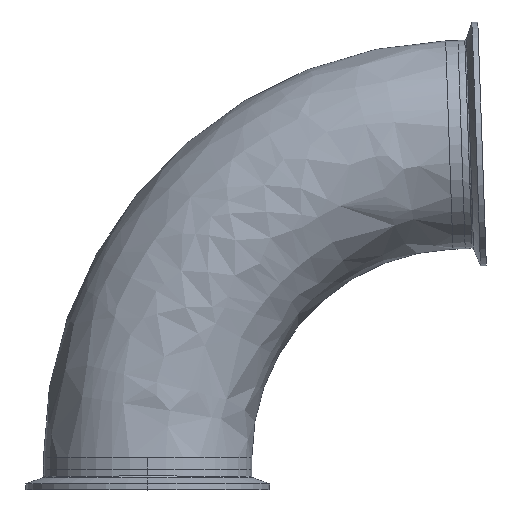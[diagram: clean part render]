
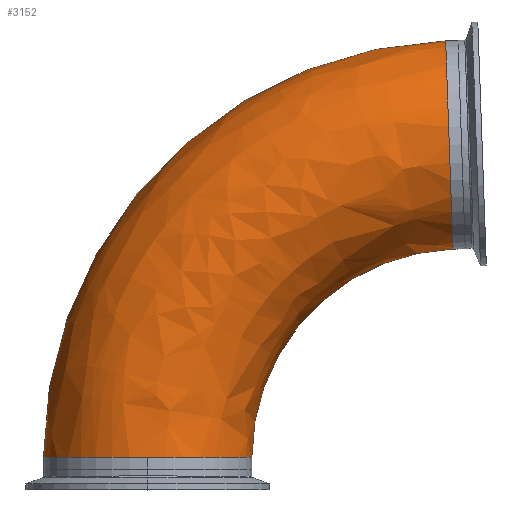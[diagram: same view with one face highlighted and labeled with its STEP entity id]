
A CAD part, top view. The second image highlights one B-rep face of the part: STEP entity #3152.
In plain terms, the highlighted free-form (B-spline) face has degree [3, 3] with [4, 4] control points.
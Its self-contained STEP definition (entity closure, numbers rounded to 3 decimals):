
#106 = EDGE_CURVE ( 'NONE', #2757, #1139, #3086, .T. ) ;
#155 = AXIS2_PLACEMENT_3D ( 'NONE', #227, #2036, #476 ) ;
#227 = CARTESIAN_POINT ( 'NONE',  ( 152.4, 5.795, 0. ) ) ;
#239 = CARTESIAN_POINT ( 'NONE',  ( 50.8, 5.795, 0. ) ) ;
#332 = CARTESIAN_POINT ( 'NONE',  ( 50.8, 5.795, 0. ) ) ;
#433 = AXIS2_PLACEMENT_3D ( 'NONE', #3241, #3300, #3256 ) ;
#476 = DIRECTION ( 'NONE',  ( -1., 0., 0. ) ) ;
#486 = CARTESIAN_POINT ( 'NONE',  ( 91.008, 105.313, 0. ) ) ;
#536 = EDGE_CURVE ( 'NONE', #660, #1139, #2707, .T. ) ;
#594 =( BOUNDED_SURFACE ( )  B_SPLINE_SURFACE ( 3, 3, ( 
 ( #1519, #2811, #2282, #732 ),
 ( #2541, #985, #2820, #1268 ),
 ( #3102, #1532, #3385, #1793 ),
 ( #239, #2048, #486, #2294 ) ),
 .UNSPECIFIED., .F., .F., .F. ) 
 B_SPLINE_SURFACE_WITH_KNOTS ( ( 4, 4 ),
 ( 4, 4 ),
 ( 0., 1. ),
 ( 0., 1. ),
 .UNSPECIFIED. ) 
 GEOMETRIC_REPRESENTATION_ITEM ( )  RATIONAL_B_SPLINE_SURFACE ( (
 ( 1., 0.813, 0.813, 1.),
 ( 0.333, 0.271, 0.271, 0.333),
 ( 0.333, 0.271, 0.271, 0.333),
 ( 1., 0.813, 0.813, 1.) ) ) 
 REPRESENTATION_ITEM ( '' )  SURFACE ( )  );
#641 = ORIENTED_EDGE ( 'NONE', *, *, #1600, .T. ) ;
#660 = VERTEX_POINT ( 'NONE', #955 ) ;
#731 = ORIENTED_EDGE ( 'NONE', *, *, #1649, .T. ) ;
#732 = CARTESIAN_POINT ( 'NONE',  ( 145.308, 208.871, 0. ) ) ;
#955 = CARTESIAN_POINT ( 'NONE',  ( 148.854, 107.333, 0. ) ) ;
#961 = AXIS2_PLACEMENT_3D ( 'NONE', #1988, #1997, #2002 ) ;
#985 = CARTESIAN_POINT ( 'NONE',  ( -50.8, 121.558, 101.6 ) ) ;
#1019 = CARTESIAN_POINT ( 'NONE',  ( 152.4, 5.795, 0. ) ) ;
#1139 = VERTEX_POINT ( 'NONE', #2458 ) ;
#1248 = AXIS2_PLACEMENT_3D ( 'NONE', #1019, #2068, #2357 ) ;
#1268 = CARTESIAN_POINT ( 'NONE',  ( 145.308, 208.871, 101.6 ) ) ;
#1519 = CARTESIAN_POINT ( 'NONE',  ( -50.8, 5.795, 0. ) ) ;
#1532 = CARTESIAN_POINT ( 'NONE',  ( 50.8, 63.676, 101.6 ) ) ;
#1600 = EDGE_CURVE ( 'NONE', #2757, #1934, #2292, .T. ) ;
#1649 = EDGE_CURVE ( 'NONE', #1934, #2667, #2408, .T. ) ;
#1698 = EDGE_LOOP ( 'NONE', ( #731, #3118, #3114, #3143, #641 ) ) ;
#1793 = CARTESIAN_POINT ( 'NONE',  ( 148.854, 107.333, 101.6 ) ) ;
#1838 = CIRCLE ( 'NONE', #155, 101.6 ) ;
#1934 = VERTEX_POINT ( 'NONE', #2167 ) ;
#1988 = CARTESIAN_POINT ( 'NONE',  ( 147.081, 158.102, 0. ) ) ;
#1997 = DIRECTION ( 'NONE',  ( -0.999, -0.035, 0. ) ) ;
#2002 = DIRECTION ( 'NONE',  ( -0.035, 0.999, 0. ) ) ;
#2007 = FACE_OUTER_BOUND ( 'NONE', #1698, .T. ) ;
#2036 = DIRECTION ( 'NONE',  ( 0., 0., -1. ) ) ;
#2048 = CARTESIAN_POINT ( 'NONE',  ( 50.8, 63.676, 0. ) ) ;
#2068 = DIRECTION ( 'NONE',  ( 0., 0., -1. ) ) ;
#2167 = CARTESIAN_POINT ( 'NONE',  ( 0., 5.795, 50.8 ) ) ;
#2178 = CARTESIAN_POINT ( 'NONE',  ( -50.8, 5.795, 0. ) ) ;
#2282 = CARTESIAN_POINT ( 'NONE',  ( 29.616, 204.831, 0. ) ) ;
#2292 = CIRCLE ( 'NONE', #3331, 50.8 ) ;
#2294 = CARTESIAN_POINT ( 'NONE',  ( 148.854, 107.333, 0. ) ) ;
#2357 = DIRECTION ( 'NONE',  ( -1., 0., 0. ) ) ;
#2408 = CIRCLE ( 'NONE', #433, 50.8 ) ;
#2458 = CARTESIAN_POINT ( 'NONE',  ( 145.308, 208.871, 0. ) ) ;
#2541 = CARTESIAN_POINT ( 'NONE',  ( -50.8, 5.795, 101.6 ) ) ;
#2667 = VERTEX_POINT ( 'NONE', #332 ) ;
#2707 = CIRCLE ( 'NONE', #961, 50.8 ) ;
#2757 = VERTEX_POINT ( 'NONE', #2178 ) ;
#2811 = CARTESIAN_POINT ( 'NONE',  ( -50.8, 121.558, 0. ) ) ;
#2820 = CARTESIAN_POINT ( 'NONE',  ( 29.616, 204.831, 101.6 ) ) ;
#3086 = CIRCLE ( 'NONE', #1248, 203.2 ) ;
#3102 = CARTESIAN_POINT ( 'NONE',  ( 50.8, 5.795, 101.6 ) ) ;
#3114 = ORIENTED_EDGE ( 'NONE', *, *, #536, .T. ) ;
#3118 = ORIENTED_EDGE ( 'NONE', *, *, #3134, .T. ) ;
#3134 = EDGE_CURVE ( 'NONE', #2667, #660, #1838, .T. ) ;
#3143 = ORIENTED_EDGE ( 'NONE', *, *, #106, .F. ) ;
#3152 = ADVANCED_FACE ( 'NONE', ( #2007 ), #594, .T. ) ;
#3229 = DIRECTION ( 'NONE',  ( 0., 1., 0. ) ) ;
#3241 = CARTESIAN_POINT ( 'NONE',  ( 0., 5.795, 0. ) ) ;
#3256 = DIRECTION ( 'NONE',  ( -1., 0., 0. ) ) ;
#3300 = DIRECTION ( 'NONE',  ( 0., 1., 0. ) ) ;
#3331 = AXIS2_PLACEMENT_3D ( 'NONE', #3335, #3229, #3366 ) ;
#3335 = CARTESIAN_POINT ( 'NONE',  ( 0., 5.795, 0. ) ) ;
#3366 = DIRECTION ( 'NONE',  ( -1., 0., 0. ) ) ;
#3385 = CARTESIAN_POINT ( 'NONE',  ( 91.008, 105.313, 101.6 ) ) ;
